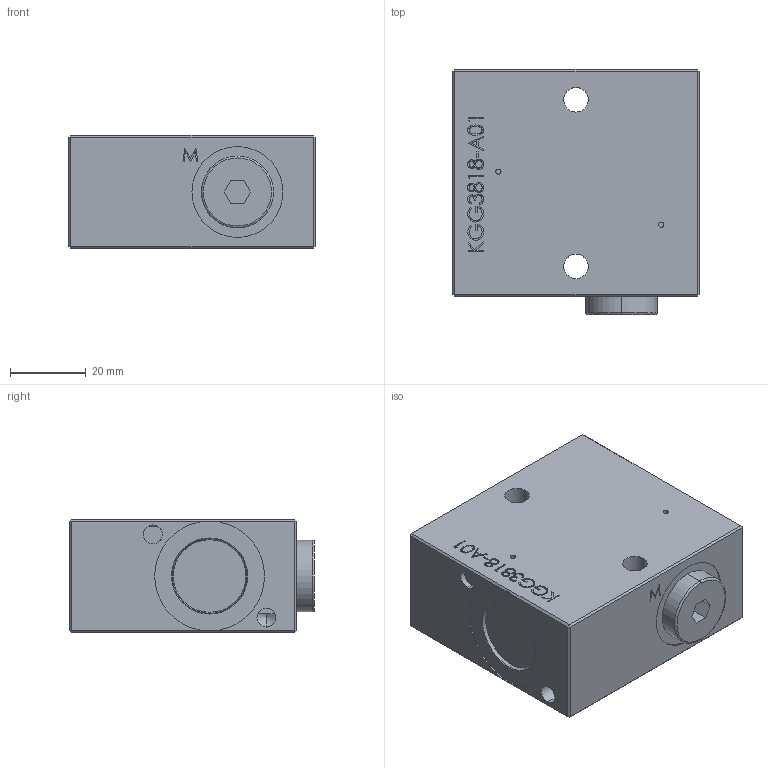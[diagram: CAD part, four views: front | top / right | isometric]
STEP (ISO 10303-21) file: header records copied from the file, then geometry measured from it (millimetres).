
FILE_DESCRIPTION (( 'STEP AP214' ), '1' );
FILE_NAME ('KGG3818-A01.STEP', '2016-11-25T10:50:02', ( '' ), ( '' ), 'SwSTEP 2.0', 'SolidWorks 2014', '' );
FILE_SCHEMA (( 'AUTOMOTIVE_DESIGN' ));
Length unit declared in the file: millimetre
Products named in the file (2): KGG3818-A01
Bounding box: 65 x 64.7 x 30 mm (x, y, z)
Volume: 114326.2 mm3; surface area: 18023.6 mm2
Topology: 2 solids, 3 shells, 271 faces, 668 edges, 433 vertices
Faces by surface type: plane 146, bspline 81, cylinder 34, cone 6, torus 4
Entity records: 15705 total; most frequent: CARTESIAN_POINT 6849, ORIENTED_EDGE 1332, DIRECTION 968, EDGE_CURVE 666, VERTEX_POINT 433, LINE 416, VECTOR 416, EDGE_LOOP 311
